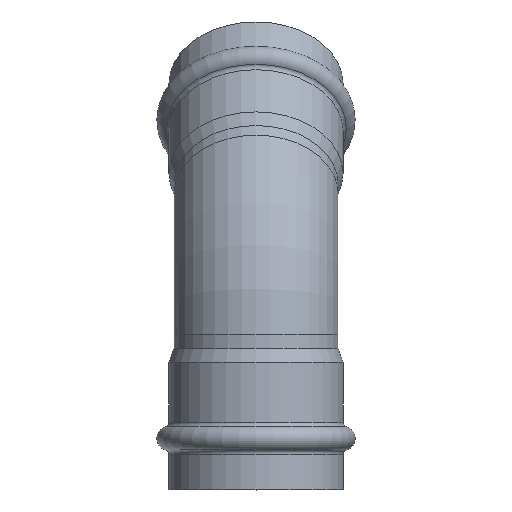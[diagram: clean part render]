
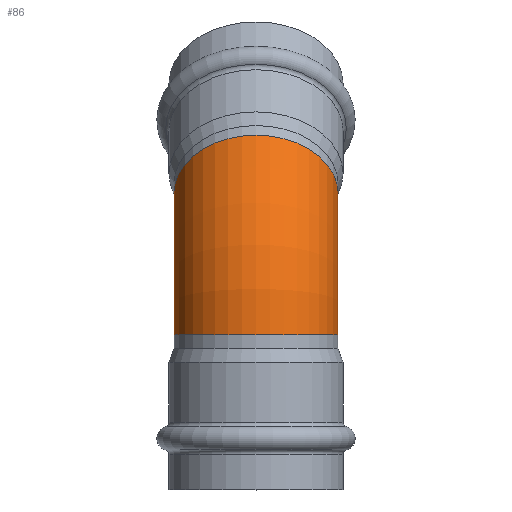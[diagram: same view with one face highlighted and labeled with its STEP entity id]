
A CAD part, top view. The second image highlights one B-rep face of the part: STEP entity #86.
In plain terms, the highlighted toroidal (fillet/blend) face has major radius 66 mm and minor radius 27 mm.
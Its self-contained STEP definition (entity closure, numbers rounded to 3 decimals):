
#86=ADVANCED_FACE('',(#384,#386),#388,.T.);
#384=FACE_BOUND('',#385,.T.);
#385=EDGE_LOOP('',(#474,#475));
#386=FACE_OUTER_BOUND('',#387,.T.);
#387=EDGE_LOOP('',(#476));
#388=TOROIDAL_SURFACE('',#389,66.,27.);
#389=AXIS2_PLACEMENT_3D('',#390,#391,#392);
#390=CARTESIAN_POINT('',(0.,51.162,-66.));
#391=DIRECTION('',(-1.,0.,0.));
#392=DIRECTION('',(0.,0.,1.));
#474=ORIENTED_EDGE('',*,*,#518,.T.);
#475=ORIENTED_EDGE('',*,*,#517,.T.);
#476=ORIENTED_EDGE('',*,*,#516,.F.);
#516=EDGE_CURVE('',#597,#597,#598,.T.);
#517=EDGE_CURVE('',#599,#600,#601,.T.);
#518=EDGE_CURVE('',#600,#599,#602,.T.);
#597=VERTEX_POINT('',#798);
#598=CIRCLE('',#799,27.);
#599=VERTEX_POINT('',#803);
#600=VERTEX_POINT('',#804);
#601=CIRCLE('',#805,27.);
#602=CIRCLE('',#809,27.);
#798=CARTESIAN_POINT('',(-27.,97.831,-19.331));
#799=AXIS2_PLACEMENT_3D('',#800,#801,#802);
#800=CARTESIAN_POINT('',(0.,97.831,-19.331));
#801=DIRECTION('',(0.,0.707,-0.707));
#802=DIRECTION('',(-1.,0.,0.));
#803=CARTESIAN_POINT('',(-27.,51.162,0.));
#804=CARTESIAN_POINT('',(0.,51.162,27.));
#805=AXIS2_PLACEMENT_3D('',#806,#807,#808);
#806=CARTESIAN_POINT('',(0.,51.162,0.));
#807=DIRECTION('',(0.,1.,0.));
#808=DIRECTION('',(-1.,0.,0.));
#809=AXIS2_PLACEMENT_3D('',#810,#811,#812);
#810=CARTESIAN_POINT('',(0.,51.162,0.));
#811=DIRECTION('',(0.,1.,0.));
#812=DIRECTION('',(0.,0.,1.));
